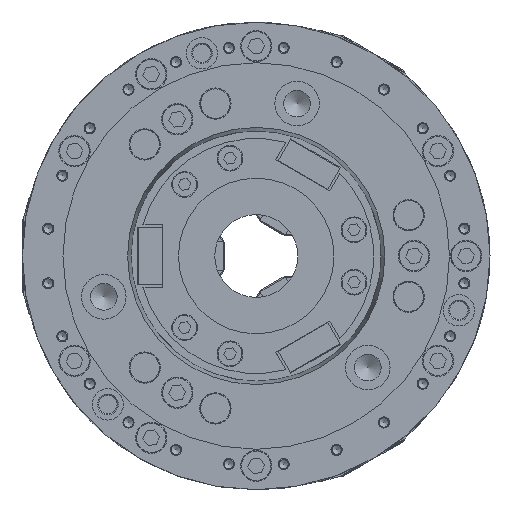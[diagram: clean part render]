
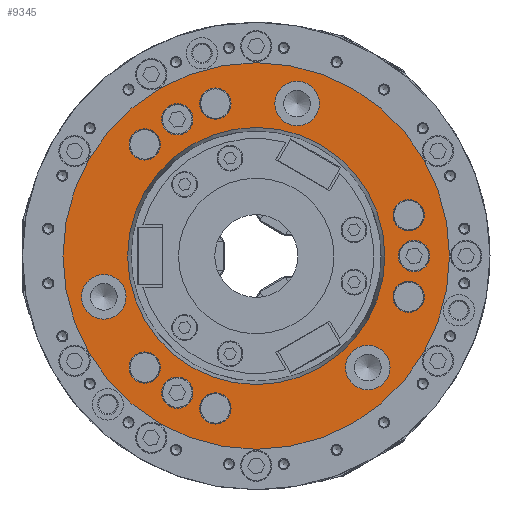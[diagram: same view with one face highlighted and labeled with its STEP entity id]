
A CAD part, left-side view. The second image highlights one B-rep face of the part: STEP entity #9345.
In plain terms, the highlighted planar face has unit normal (-1, 0, 0).
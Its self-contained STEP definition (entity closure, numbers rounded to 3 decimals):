
#1775 = DIRECTION ( 'NONE',  ( -1., 0., 0. ) ) ;
#2515 = DIRECTION ( 'NONE',  ( 0., 0.866, -0.5 ) ) ;
#3042 = DIRECTION ( 'NONE',  ( 0., 0., 1. ) ) ;
#3700 = EDGE_LOOP ( 'NONE', ( #5199 ) ) ;
#4002 = DIRECTION ( 'NONE',  ( 0., -0.866, 0.5 ) ) ;
#4080 = DIRECTION ( 'NONE',  ( -1., 0., 0. ) ) ;
#5199 = ORIENTED_EDGE ( 'NONE', *, *, #64225, .F. ) ;
#5510 = AXIS2_PLACEMENT_3D ( 'NONE', #79169, #42248, #41152 ) ;
#5771 = DIRECTION ( 'NONE',  ( -1., 0., 0. ) ) ;
#6252 = FACE_BOUND ( 'NONE', #19302, .T. ) ;
#6594 = CARTESIAN_POINT ( 'NONE',  ( -114., 42.863, 74.24 ) ) ;
#9345 = ADVANCED_FACE ( 'NONE', ( #34866, #66471, #18045, #52703, #14149, #28054, #6252, #72386, #74380, #11138, #51683, #13128, #55606, #54662 ), #13006, .T. ) ;
#9579 = CIRCLE ( 'NONE', #72485, 8.5 ) ;
#10406 = ORIENTED_EDGE ( 'NONE', *, *, #19333, .T. ) ;
#10780 = CARTESIAN_POINT ( 'NONE',  ( -114., -22.187, 94.904 ) ) ;
#11138 = FACE_BOUND ( 'NONE', #44485, .T. ) ;
#11521 = AXIS2_PLACEMENT_3D ( 'NONE', #78667, #21586, #3042 ) ;
#12752 = VERTEX_POINT ( 'NONE', #23804 ) ;
#13006 = PLANE ( 'NONE',  #39656 ) ;
#13128 = FACE_BOUND ( 'NONE', #19237, .T. ) ;
#13412 = DIRECTION ( 'NONE',  ( 0., 0.866, 0.5 ) ) ;
#14149 = FACE_OUTER_BOUND ( 'NONE', #29398, .T. ) ;
#14207 = EDGE_CURVE ( 'NONE', #27830, #27830, #48005, .T. ) ;
#17404 = EDGE_CURVE ( 'NONE', #73169, #73169, #45772, .T. ) ;
#18045 = FACE_BOUND ( 'NONE', #72902, .T. ) ;
#18277 = CARTESIAN_POINT ( 'NONE',  ( -114., 52.5, -90.933 ) ) ;
#18780 = CARTESIAN_POINT ( 'NONE',  ( -114., 14.826, 78.554 ) ) ;
#18812 = DIRECTION ( 'NONE',  ( 0., 0., 1. ) ) ;
#19237 = EDGE_LOOP ( 'NONE', ( #77065 ) ) ;
#19302 = EDGE_LOOP ( 'NONE', ( #38023 ) ) ;
#19333 = EDGE_CURVE ( 'NONE', #30773, #30773, #61384, .T. ) ;
#20602 = CIRCLE ( 'NONE', #5510, 8.5 ) ;
#20809 = CARTESIAN_POINT ( 'NONE',  ( -114., 35.501, 69.99 ) ) ;
#20862 = VERTEX_POINT ( 'NONE', #45682 ) ;
#21370 = AXIS2_PLACEMENT_3D ( 'NONE', #66058, #1775, #65512 ) ;
#21498 = AXIS2_PLACEMENT_3D ( 'NONE', #35504, #79631, #4002 ) ;
#21586 = DIRECTION ( 'NONE',  ( -1., 0., 0. ) ) ;
#21972 = AXIS2_PLACEMENT_3D ( 'NONE', #61001, #4080, #41121 ) ;
#22587 = DIRECTION ( 'NONE',  ( -1., 0., 0. ) ) ;
#22668 = ORIENTED_EDGE ( 'NONE', *, *, #14207, .T. ) ;
#23120 = CARTESIAN_POINT ( 'NONE',  ( -114., 60.617, -60.617 ) ) ;
#23804 = CARTESIAN_POINT ( 'NONE',  ( -114., -75.443, 26.437 ) ) ;
#24021 = DIRECTION ( 'NONE',  ( 0., 0., -1. ) ) ;
#24160 = AXIS2_PLACEMENT_3D ( 'NONE', #47968, #54271, #60644 ) ;
#24409 = EDGE_LOOP ( 'NONE', ( #61039 ) ) ;
#24524 = AXIS2_PLACEMENT_3D ( 'NONE', #58416, #39658, #13412 ) ;
#24927 = ORIENTED_EDGE ( 'NONE', *, *, #67965, .T. ) ;
#27145 = CIRCLE ( 'NONE', #53737, 12.1 ) ;
#27272 = AXIS2_PLACEMENT_3D ( 'NONE', #55972, #31679, #81848 ) ;
#27619 = CARTESIAN_POINT ( 'NONE',  ( -114., -82.804, -22.187 ) ) ;
#27830 = VERTEX_POINT ( 'NONE', #59547 ) ;
#28054 = FACE_BOUND ( 'NONE', #3700, .T. ) ;
#29056 = ORIENTED_EDGE ( 'NONE', *, *, #80157, .F. ) ;
#29398 = EDGE_LOOP ( 'NONE', ( #32911 ) ) ;
#30003 = CARTESIAN_POINT ( 'NONE',  ( -114., 0., -105. ) ) ;
#30773 = VERTEX_POINT ( 'NONE', #36588 ) ;
#31586 = VERTEX_POINT ( 'NONE', #80065 ) ;
#31679 = DIRECTION ( 'NONE',  ( 1., 0., 0. ) ) ;
#32036 = CIRCLE ( 'NONE', #27272, 8.5 ) ;
#32330 = ORIENTED_EDGE ( 'NONE', *, *, #42415, .T. ) ;
#32393 = DIRECTION ( 'NONE',  ( 0., 0., 1. ) ) ;
#32911 = ORIENTED_EDGE ( 'NONE', *, *, #17404, .F. ) ;
#34606 = CIRCLE ( 'NONE', #21370, 12.1 ) ;
#34733 = EDGE_LOOP ( 'NONE', ( #50680 ) ) ;
#34866 = FACE_BOUND ( 'NONE', #37663, .T. ) ;
#35262 = AXIS2_PLACEMENT_3D ( 'NONE', #66558, #41997, #40906 ) ;
#35506 = EDGE_CURVE ( 'NONE', #20862, #20862, #58981, .T. ) ;
#35504 = CARTESIAN_POINT ( 'NONE',  ( -114., 22.187, -82.804 ) ) ;
#35828 = CIRCLE ( 'NONE', #11521, 8.5 ) ;
#36243 = CARTESIAN_POINT ( 'NONE',  ( -114., 60.617, -52.117 ) ) ;
#36588 = CARTESIAN_POINT ( 'NONE',  ( -114., 0., -69.859 ) ) ;
#37576 = CARTESIAN_POINT ( 'NONE',  ( -114., 82.804, -10.087 ) ) ;
#37609 = EDGE_CURVE ( 'NONE', #47569, #47569, #35828, .T. ) ;
#37663 = EDGE_LOOP ( 'NONE', ( #51505 ) ) ;
#38023 = ORIENTED_EDGE ( 'NONE', *, *, #37609, .F. ) ;
#38240 = CARTESIAN_POINT ( 'NONE',  ( -114., 42.862, -65.74 ) ) ;
#39064 = CARTESIAN_POINT ( 'NONE',  ( -114., 60.617, 52.117 ) ) ;
#39421 = VERTEX_POINT ( 'NONE', #62996 ) ;
#39656 = AXIS2_PLACEMENT_3D ( 'NONE', #18277, #75414, #18812 ) ;
#39658 = DIRECTION ( 'NONE',  ( 1., 0., 0. ) ) ;
#39934 = EDGE_LOOP ( 'NONE', ( #80556 ) ) ;
#39993 = AXIS2_PLACEMENT_3D ( 'NONE', #27619, #77832, #2515 ) ;
#40592 = VERTEX_POINT ( 'NONE', #20809 ) ;
#40906 = DIRECTION ( 'NONE',  ( 0., 0., -1. ) ) ;
#41121 = DIRECTION ( 'NONE',  ( 0., 0., 1. ) ) ;
#41152 = DIRECTION ( 'NONE',  ( 0., 0.866, 0.5 ) ) ;
#41785 = AXIS2_PLACEMENT_3D ( 'NONE', #23120, #22587, #73611 ) ;
#41997 = DIRECTION ( 'NONE',  ( 1., 0., 0. ) ) ;
#42248 = DIRECTION ( 'NONE',  ( 1., 0., 0. ) ) ;
#42415 = EDGE_CURVE ( 'NONE', #68194, #68194, #32036, .T. ) ;
#43468 = VERTEX_POINT ( 'NONE', #36243 ) ;
#43535 = CIRCLE ( 'NONE', #21972, 12.1 ) ;
#44417 = VERTEX_POINT ( 'NONE', #10780 ) ;
#44485 = EDGE_LOOP ( 'NONE', ( #22668 ) ) ;
#44807 = CARTESIAN_POINT ( 'NONE',  ( -114., -22.187, 82.804 ) ) ;
#45682 = CARTESIAN_POINT ( 'NONE',  ( -114., -75.443, -26.437 ) ) ;
#45772 = CIRCLE ( 'NONE', #35262, 105. ) ;
#47181 = EDGE_CURVE ( 'NONE', #40592, #40592, #9579, .T. ) ;
#47329 = VERTEX_POINT ( 'NONE', #37576 ) ;
#47569 = VERTEX_POINT ( 'NONE', #38240 ) ;
#47968 = CARTESIAN_POINT ( 'NONE',  ( -114., 22.187, 82.804 ) ) ;
#48005 = CIRCLE ( 'NONE', #24524, 8.5 ) ;
#48310 = VERTEX_POINT ( 'NONE', #18780 ) ;
#49432 = DIRECTION ( 'NONE',  ( 1., 0., 0. ) ) ;
#50090 = EDGE_LOOP ( 'NONE', ( #24927 ) ) ;
#50631 = ORIENTED_EDGE ( 'NONE', *, *, #35506, .F. ) ;
#50680 = ORIENTED_EDGE ( 'NONE', *, *, #67296, .F. ) ;
#51505 = ORIENTED_EDGE ( 'NONE', *, *, #71561, .F. ) ;
#51683 = FACE_BOUND ( 'NONE', #50090, .T. ) ;
#51800 = EDGE_LOOP ( 'NONE', ( #32330 ) ) ;
#52703 = FACE_BOUND ( 'NONE', #63686, .T. ) ;
#53737 = AXIS2_PLACEMENT_3D ( 'NONE', #44807, #81723, #32393 ) ;
#53849 = CIRCLE ( 'NONE', #41785, 8.5 ) ;
#54271 = DIRECTION ( 'NONE',  ( -1., 0., 0. ) ) ;
#54662 = FACE_BOUND ( 'NONE', #51800, .T. ) ;
#55452 = CARTESIAN_POINT ( 'NONE',  ( -114., 0., 0. ) ) ;
#55606 = FACE_BOUND ( 'NONE', #24409, .T. ) ;
#55972 = CARTESIAN_POINT ( 'NONE',  ( -114., 60.617, 60.617 ) ) ;
#56346 = CIRCLE ( 'NONE', #21498, 8.5 ) ;
#56555 = DIRECTION ( 'NONE',  ( 0., -0.866, -0.5 ) ) ;
#58416 = CARTESIAN_POINT ( 'NONE',  ( -114., -85.725, 0. ) ) ;
#58981 = CIRCLE ( 'NONE', #39993, 8.5 ) ;
#59547 = CARTESIAN_POINT ( 'NONE',  ( -114., -78.364, 4.25 ) ) ;
#60644 = DIRECTION ( 'NONE',  ( 0., -0.866, -0.5 ) ) ;
#61001 = CARTESIAN_POINT ( 'NONE',  ( -114., 82.804, -22.187 ) ) ;
#61039 = ORIENTED_EDGE ( 'NONE', *, *, #47181, .F. ) ;
#61384 = CIRCLE ( 'NONE', #76604, 69.859 ) ;
#62996 = CARTESIAN_POINT ( 'NONE',  ( -114., 14.826, -78.554 ) ) ;
#63259 = CIRCLE ( 'NONE', #24160, 8.5 ) ;
#63686 = EDGE_LOOP ( 'NONE', ( #10406 ) ) ;
#64225 = EDGE_CURVE ( 'NONE', #43468, #43468, #53849, .T. ) ;
#65512 = DIRECTION ( 'NONE',  ( 0., 0., 1. ) ) ;
#66058 = CARTESIAN_POINT ( 'NONE',  ( -114., -60.617, -60.617 ) ) ;
#66471 = FACE_BOUND ( 'NONE', #34733, .T. ) ;
#66558 = CARTESIAN_POINT ( 'NONE',  ( -114., 0., 0. ) ) ;
#66656 = EDGE_LOOP ( 'NONE', ( #50631 ) ) ;
#67296 = EDGE_CURVE ( 'NONE', #31586, #31586, #34606, .T. ) ;
#67965 = EDGE_CURVE ( 'NONE', #12752, #12752, #20602, .T. ) ;
#68194 = VERTEX_POINT ( 'NONE', #39064 ) ;
#71561 = EDGE_CURVE ( 'NONE', #44417, #44417, #27145, .T. ) ;
#72386 = FACE_BOUND ( 'NONE', #39934, .T. ) ;
#72485 = AXIS2_PLACEMENT_3D ( 'NONE', #6594, #5771, #56555 ) ;
#72902 = EDGE_LOOP ( 'NONE', ( #29056 ) ) ;
#73169 = VERTEX_POINT ( 'NONE', #30003 ) ;
#73611 = DIRECTION ( 'NONE',  ( 0., 0., 1. ) ) ;
#74380 = FACE_BOUND ( 'NONE', #66656, .T. ) ;
#75414 = DIRECTION ( 'NONE',  ( -1., 0., 0. ) ) ;
#76604 = AXIS2_PLACEMENT_3D ( 'NONE', #55452, #49432, #24021 ) ;
#77065 = ORIENTED_EDGE ( 'NONE', *, *, #80728, .F. ) ;
#77832 = DIRECTION ( 'NONE',  ( -1., 0., 0. ) ) ;
#78667 = CARTESIAN_POINT ( 'NONE',  ( -114., 42.862, -74.24 ) ) ;
#79169 = CARTESIAN_POINT ( 'NONE',  ( -114., -82.804, 22.187 ) ) ;
#79631 = DIRECTION ( 'NONE',  ( 1., 0., 0. ) ) ;
#80065 = CARTESIAN_POINT ( 'NONE',  ( -114., -60.617, -48.517 ) ) ;
#80157 = EDGE_CURVE ( 'NONE', #47329, #47329, #43535, .T. ) ;
#80556 = ORIENTED_EDGE ( 'NONE', *, *, #80733, .T. ) ;
#80728 = EDGE_CURVE ( 'NONE', #48310, #48310, #63259, .T. ) ;
#80733 = EDGE_CURVE ( 'NONE', #39421, #39421, #56346, .T. ) ;
#81723 = DIRECTION ( 'NONE',  ( -1., 0., 0. ) ) ;
#81848 = DIRECTION ( 'NONE',  ( 0., 0., -1. ) ) ;
